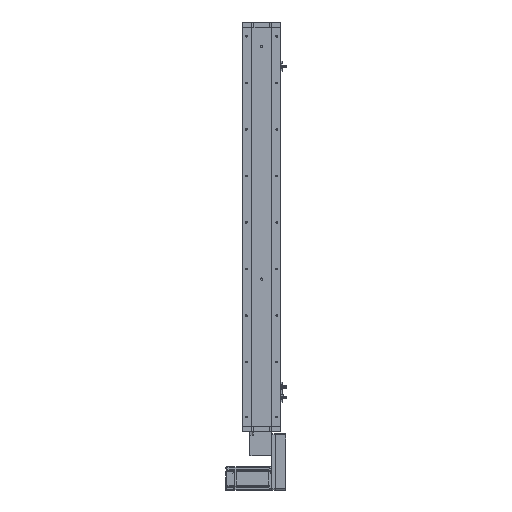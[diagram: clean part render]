
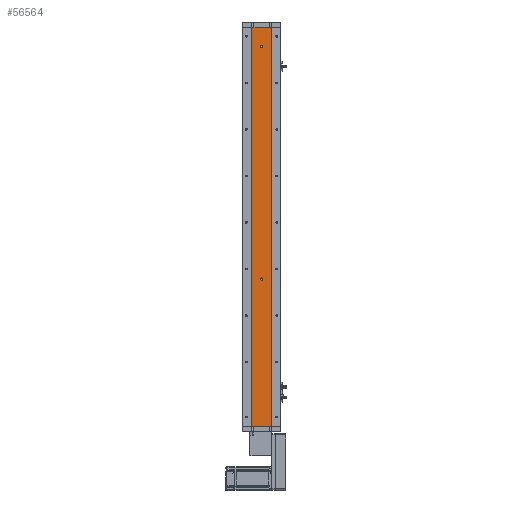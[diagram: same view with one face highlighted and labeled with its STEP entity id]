
A CAD part, left-side view. The second image highlights one B-rep face of the part: STEP entity #56564.
In plain terms, the highlighted planar face has unit normal (-1, 0, 0).
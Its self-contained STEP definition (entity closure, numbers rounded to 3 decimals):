
#583 = VECTOR ( 'NONE', #17516, 1000. ) ;
#4652 = EDGE_CURVE ( 'NONE', #38499, #56008, #34325, .T. ) ;
#5605 = EDGE_CURVE ( 'NONE', #42647, #17523, #21877, .T. ) ;
#6133 = EDGE_CURVE ( 'NONE', #68296, #17523, #24167, .T. ) ;
#6552 = DIRECTION ( 'NONE',  ( -1., 0., 0. ) ) ;
#7990 = DIRECTION ( 'NONE',  ( 1., 0., 0. ) ) ;
#9215 = VERTEX_POINT ( 'NONE', #25483 ) ;
#12630 = ORIENTED_EDGE ( 'NONE', *, *, #57185, .T. ) ;
#12754 = CARTESIAN_POINT ( 'NONE',  ( -18.926, 24.785, 1030. ) ) ;
#13275 = FACE_BOUND ( 'NONE', #65137, .T. ) ;
#13686 = EDGE_LOOP ( 'NONE', ( #24459, #45411, #25882, #12630 ) ) ;
#13735 = EDGE_CURVE ( 'NONE', #9215, #42647, #14645, .T. ) ;
#14614 = VERTEX_POINT ( 'NONE', #17120 ) ;
#14645 = LINE ( 'NONE', #33501, #583 ) ;
#14910 = ORIENTED_EDGE ( 'NONE', *, *, #63391, .F. ) ;
#16331 = CARTESIAN_POINT ( 'NONE',  ( -18.926, -24.785, 0. ) ) ;
#16603 = CIRCLE ( 'NONE', #48485, 3. ) ;
#17120 = CARTESIAN_POINT ( 'NONE',  ( -18.926, 0., 977. ) ) ;
#17516 = DIRECTION ( 'NONE',  ( 0., -1., 0. ) ) ;
#17523 = VERTEX_POINT ( 'NONE', #16331 ) ;
#18115 = CARTESIAN_POINT ( 'NONE',  ( -18.926, -24.785, 1030. ) ) ;
#18258 = CARTESIAN_POINT ( 'NONE',  ( -18.926, 0., 980. ) ) ;
#19568 = CARTESIAN_POINT ( 'NONE',  ( -18.926, 0., 980. ) ) ;
#20484 = CARTESIAN_POINT ( 'NONE',  ( -18.926, -24.785, 1030. ) ) ;
#21877 = LINE ( 'NONE', #20484, #48437 ) ;
#22291 = DIRECTION ( 'NONE',  ( -1., 0., 0. ) ) ;
#23625 = DIRECTION ( 'NONE',  ( 0., 0., 1. ) ) ;
#24167 = LINE ( 'NONE', #62509, #36623 ) ;
#24459 = ORIENTED_EDGE ( 'NONE', *, *, #6133, .T. ) ;
#24870 = DIRECTION ( 'NONE',  ( 0., 0., 1. ) ) ;
#25483 = CARTESIAN_POINT ( 'NONE',  ( -18.926, 24.785, 1030. ) ) ;
#25882 = ORIENTED_EDGE ( 'NONE', *, *, #13735, .F. ) ;
#27385 = FACE_OUTER_BOUND ( 'NONE', #13686, .T. ) ;
#29475 = ORIENTED_EDGE ( 'NONE', *, *, #49739, .F. ) ;
#29966 = VERTEX_POINT ( 'NONE', #46476 ) ;
#30626 = DIRECTION ( 'NONE',  ( 0., -1., 0. ) ) ;
#33501 = CARTESIAN_POINT ( 'NONE',  ( -18.926, 24.785, 1030. ) ) ;
#34129 = PLANE ( 'NONE',  #39060 ) ;
#34154 = EDGE_LOOP ( 'NONE', ( #29475, #54736 ) ) ;
#34325 = CIRCLE ( 'NONE', #58488, 3. ) ;
#35172 = CARTESIAN_POINT ( 'NONE',  ( -18.926, 24.785, 0. ) ) ;
#36623 = VECTOR ( 'NONE', #30626, 1000. ) ;
#37173 = LINE ( 'NONE', #12754, #49656 ) ;
#38291 = CARTESIAN_POINT ( 'NONE',  ( -18.926, 0., 380. ) ) ;
#38499 = VERTEX_POINT ( 'NONE', #61089 ) ;
#39060 = AXIS2_PLACEMENT_3D ( 'NONE', #39735, #7990, #45022 ) ;
#39583 = CARTESIAN_POINT ( 'NONE',  ( -18.926, 0., 383. ) ) ;
#39735 = CARTESIAN_POINT ( 'NONE',  ( -18.926, 24.785, 1030. ) ) ;
#42647 = VERTEX_POINT ( 'NONE', #18115 ) ;
#43648 = DIRECTION ( 'NONE',  ( 0., 0., 1. ) ) ;
#45022 = DIRECTION ( 'NONE',  ( 0., 0., -1. ) ) ;
#45411 = ORIENTED_EDGE ( 'NONE', *, *, #5605, .F. ) ;
#46476 = CARTESIAN_POINT ( 'NONE',  ( -18.926, 0., 983. ) ) ;
#46965 = DIRECTION ( 'NONE',  ( 0., 0., -1. ) ) ;
#48437 = VECTOR ( 'NONE', #46965, 1000. ) ;
#48485 = AXIS2_PLACEMENT_3D ( 'NONE', #18258, #55478, #23625 ) ;
#49426 = EDGE_CURVE ( 'NONE', #29966, #14614, #52184, .T. ) ;
#49656 = VECTOR ( 'NONE', #49876, 1000. ) ;
#49739 = EDGE_CURVE ( 'NONE', #56008, #38499, #61264, .T. ) ;
#49876 = DIRECTION ( 'NONE',  ( 0., 0., -1. ) ) ;
#52184 = CIRCLE ( 'NONE', #56293, 3. ) ;
#52456 = ORIENTED_EDGE ( 'NONE', *, *, #49426, .F. ) ;
#54148 = CARTESIAN_POINT ( 'NONE',  ( -18.926, 0., 380. ) ) ;
#54736 = ORIENTED_EDGE ( 'NONE', *, *, #4652, .F. ) ;
#55478 = DIRECTION ( 'NONE',  ( -1., 0., 0. ) ) ;
#55663 = FACE_BOUND ( 'NONE', #34154, .T. ) ;
#56008 = VERTEX_POINT ( 'NONE', #39583 ) ;
#56293 = AXIS2_PLACEMENT_3D ( 'NONE', #19568, #56732, #24870 ) ;
#56564 = ADVANCED_FACE ( 'NONE', ( #55663, #13275, #27385 ), #34129, .F. ) ;
#56732 = DIRECTION ( 'NONE',  ( -1., 0., 0. ) ) ;
#57185 = EDGE_CURVE ( 'NONE', #9215, #68296, #37173, .T. ) ;
#57191 = AXIS2_PLACEMENT_3D ( 'NONE', #54148, #22291, #59475 ) ;
#58488 = AXIS2_PLACEMENT_3D ( 'NONE', #38291, #6552, #43648 ) ;
#59475 = DIRECTION ( 'NONE',  ( 0., 0., 1. ) ) ;
#61089 = CARTESIAN_POINT ( 'NONE',  ( -18.926, 0., 377. ) ) ;
#61264 = CIRCLE ( 'NONE', #57191, 3. ) ;
#62509 = CARTESIAN_POINT ( 'NONE',  ( -18.926, 24.785, 0. ) ) ;
#63391 = EDGE_CURVE ( 'NONE', #14614, #29966, #16603, .T. ) ;
#65137 = EDGE_LOOP ( 'NONE', ( #52456, #14910 ) ) ;
#68296 = VERTEX_POINT ( 'NONE', #35172 ) ;
